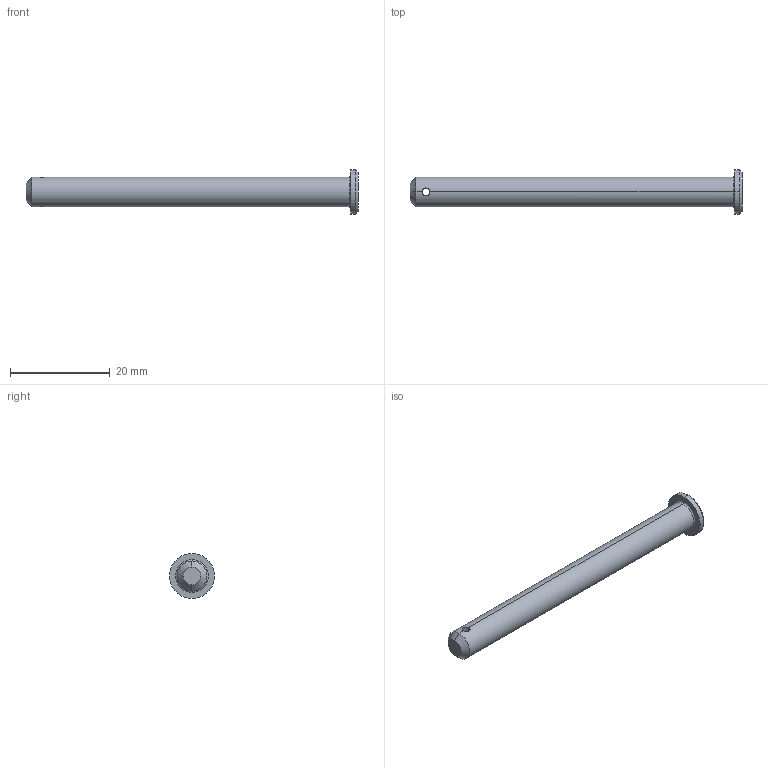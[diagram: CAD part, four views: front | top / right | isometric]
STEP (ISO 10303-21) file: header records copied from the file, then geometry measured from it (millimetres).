
FILE_DESCRIPTION (( 'STEP AP203' ), '1' );
FILE_NAME ('Wiberger-sms2360_6x65.step', '2012-10-09T08:58:42', ( 'Magnus' ), ( 'Wiberger' ), 'SwSTEP 2.0', 'SolidWorks 2011', '' );
FILE_SCHEMA (( 'CONFIG_CONTROL_DESIGN' ));
Length unit declared in the file: millimetre
Products named in the file (1): Wiberger-sms2360_6x65
Bounding box: 66.5 x 9 x 9 mm (x, y, z)
Volume: 1906.5 mm3; surface area: 1394.3 mm2
Topology: 1 solids, 1 shells, 15 faces, 32 edges, 18 vertices
Faces by surface type: cylinder 6, cone 4, plane 3, torus 2
Entity records: 539 total; most frequent: CARTESIAN_POINT 130, DIRECTION 76, ORIENTED_EDGE 64, AXIS2_PLACEMENT_3D 32, EDGE_CURVE 32, VERTEX_POINT 18, CIRCLE 16, EDGE_LOOP 16
